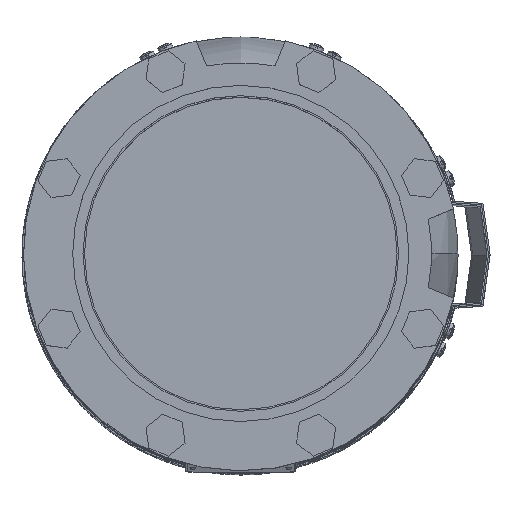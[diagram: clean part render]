
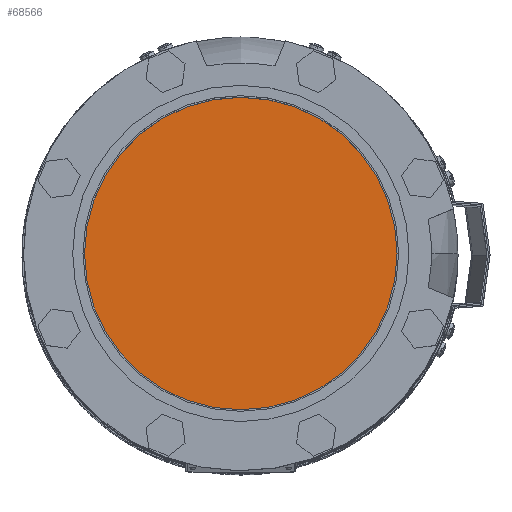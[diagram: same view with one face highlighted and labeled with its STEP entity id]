
A CAD part, top view. The second image highlights one B-rep face of the part: STEP entity #68566.
In plain terms, the highlighted planar face has unit normal (0, 0, 1) as drawn and (0, 1, 0) by its records, which use the part's own axes.
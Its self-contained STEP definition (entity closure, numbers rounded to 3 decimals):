
#633=CIRCLE('',#72260,102.5);
#634=CIRCLE('',#72261,102.5);
#16702=ORIENTED_EDGE('',*,*,#37494,.F.);
#16703=ORIENTED_EDGE('',*,*,#37495,.T.);
#37494=EDGE_CURVE('',#47890,#47891,#633,.T.);
#37495=EDGE_CURVE('',#47890,#47891,#634,.T.);
#47890=VERTEX_POINT('',#98947);
#47891=VERTEX_POINT('',#98948);
#55594=EDGE_LOOP('',(#16702,#16703));
#60545=FACE_BOUND('',#55594,.T.);
#65495=PLANE('',#72259);
#68566=ADVANCED_FACE('',(#60545),#65495,.T.);
#72259=AXIS2_PLACEMENT_3D('',#98945,#78989,#78990);
#72260=AXIS2_PLACEMENT_3D('',#98946,#78991,#78992);
#72261=AXIS2_PLACEMENT_3D('',#98949,#78993,#78994);
#78989=DIRECTION('',(0.,1.,0.));
#78990=DIRECTION('',(-1.,0.,0.));
#78991=DIRECTION('',(0.,-1.,0.));
#78992=DIRECTION('',(-1.,0.,0.));
#78993=DIRECTION('',(0.,1.,0.));
#78994=DIRECTION('',(-1.,0.,0.));
#98945=CARTESIAN_POINT('',(-109.56,216.5,0.));
#98946=CARTESIAN_POINT('',(0.,216.5,0.));
#98947=CARTESIAN_POINT('',(-102.5,216.5,0.));
#98948=CARTESIAN_POINT('',(102.5,216.5,0.));
#98949=CARTESIAN_POINT('',(0.,216.5,0.));
